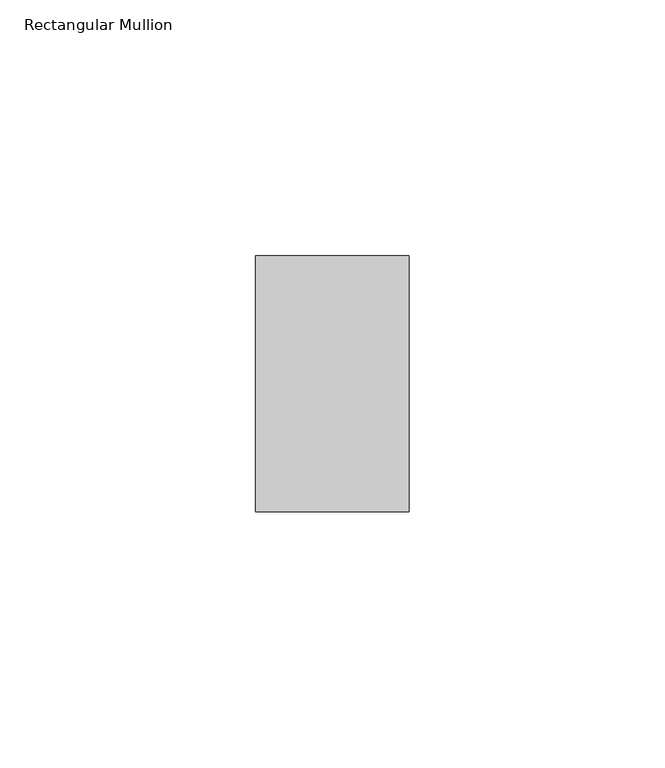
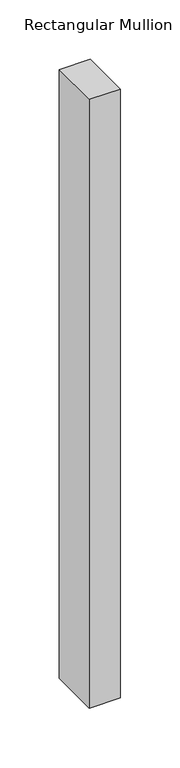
"""IFC4 building model written with IfcOpenShell, lengths in millimetres: member geometry, Rectangular Mullion : ARQ_TV_MULL_50x30mm."""

from ifc_helpers import new_model, si_unit, frame, origin, place, context, project, spatial, polyline, outline, extrude, source, transform, mapped, element, save


def rectangular_mullion_9be61cad(model_context):
    return source(origin(), model_context, "Body", "SweptSolid", [
        extrude(outline(polyline([(0.0, 25.0), (0.0, -25.0), (-30.0, -25.0), (-30.0, 25.0), (0.0, 25.0)])), frame((0.0, 0.0, -625.0), z_axis=(0.0, 0.0, 1.0), x_axis=(1.0, 0.0, 0.0)), (0.0, 0.0, 1.0), 625.0),
    ])


if __name__ == "__main__":
    model = new_model("IFC4")
    model_context = context("Model", 3, world=origin())
    ifc_project = project(units=[si_unit("LENGTHUNIT", "METRE", prefix="MILLI")], contexts=[model_context])
    site = spatial("IfcSite", under=ifc_project)
    building = spatial("IfcBuilding", under=site)
    placement = place(None, origin())
    rectangular_mullion_shape = rectangular_mullion_9be61cad(model_context)
    element("IfcMember", 1, ObjectType="Rectangular Mullion : ARQ_TV_MULL_50x30mm", at=placement, inside=building, context=model_context, shape_type="MappedRepresentation", body=[
        mapped(rectangular_mullion_shape, transform((0.0, 0.0, 0.0), x_axis=(1.0, 0.0, 0.0), y_axis=(0.0, 1.0, 0.0), z_axis=(0.0, 0.0, 1.0))),
    ])
    save(model, "model.ifc")
